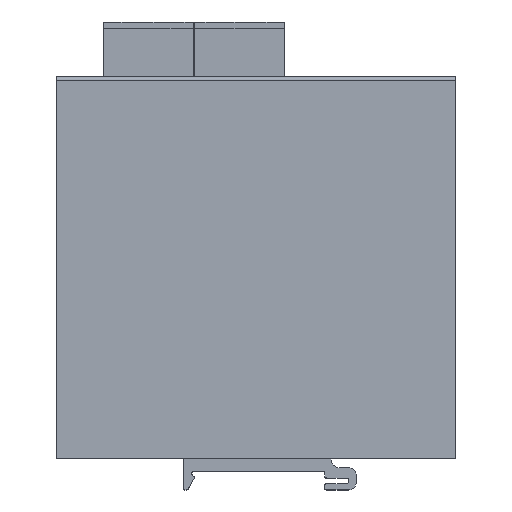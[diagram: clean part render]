
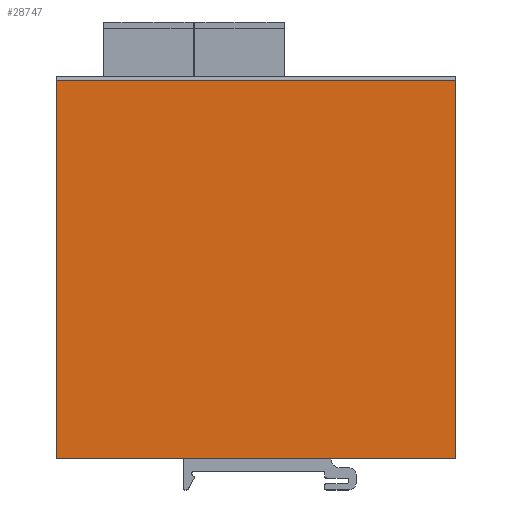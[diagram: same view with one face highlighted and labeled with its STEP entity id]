
A CAD part, top view. The second image highlights one B-rep face of the part: STEP entity #28747.
In plain terms, the highlighted planar face has unit normal (0, 0, 1).
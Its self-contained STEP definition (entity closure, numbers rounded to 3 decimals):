
#53=DIRECTION('',(-1.,0.,0.));
#54=VECTOR('',#53,105.);
#55=CARTESIAN_POINT('',(52.5,-38.9,20.));
#56=LINE('',#55,#54);
#57=DIRECTION('',(0.,1.,0.));
#58=VECTOR('',#57,99.4);
#59=CARTESIAN_POINT('',(-52.5,-38.9,20.));
#60=LINE('',#59,#58);
#61=DIRECTION('',(0.,-1.,0.));
#62=VECTOR('',#61,99.4);
#63=CARTESIAN_POINT('',(52.5,60.5,20.));
#64=LINE('',#63,#62);
#69=DIRECTION('',(-1.,0.,0.));
#70=VECTOR('',#69,105.);
#71=CARTESIAN_POINT('',(52.5,60.5,20.));
#72=LINE('',#71,#70);
#21607=CARTESIAN_POINT('',(-52.5,-38.9,20.));
#21608=VERTEX_POINT('',#21607);
#21609=CARTESIAN_POINT('',(52.5,-38.9,20.));
#21610=VERTEX_POINT('',#21609);
#21615=CARTESIAN_POINT('',(-52.5,60.5,20.));
#21616=VERTEX_POINT('',#21615);
#21619=CARTESIAN_POINT('',(52.5,60.5,20.));
#21620=VERTEX_POINT('',#21619);
#28735=CARTESIAN_POINT('',(0.,0.,20.));
#28736=DIRECTION('',(0.,0.,1.));
#28737=DIRECTION('',(1.,0.,0.));
#28738=AXIS2_PLACEMENT_3D('',#28735,#28736,#28737);
#28739=PLANE('',#28738);
#28740=ORIENTED_EDGE('',*,*,#28679,.T.);
#28741=ORIENTED_EDGE('',*,*,#28699,.T.);
#28743=ORIENTED_EDGE('',*,*,#28742,.F.);
#28744=ORIENTED_EDGE('',*,*,#28724,.T.);
#28745=EDGE_LOOP('',(#28740,#28741,#28743,#28744));
#28746=FACE_OUTER_BOUND('',#28745,.F.);
#28679=EDGE_CURVE('',#21610,#21608,#56,.T.);
#28699=EDGE_CURVE('',#21608,#21616,#60,.T.);
#28724=EDGE_CURVE('',#21620,#21610,#64,.T.);
#28742=EDGE_CURVE('',#21620,#21616,#72,.T.);
#28747=ADVANCED_FACE('',(#28746),#28739,.T.);
